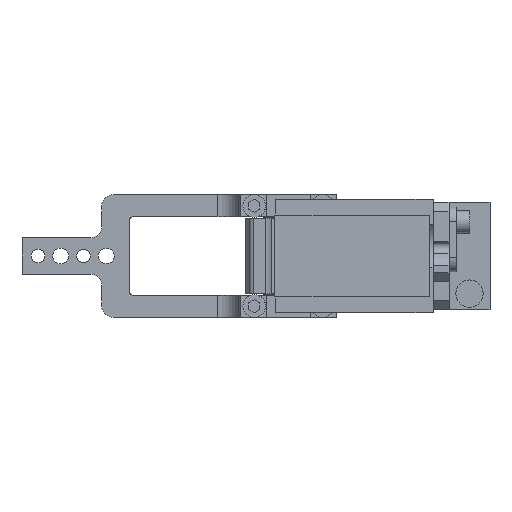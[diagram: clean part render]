
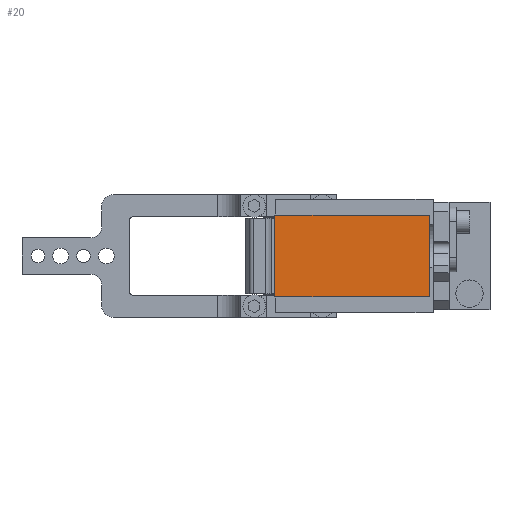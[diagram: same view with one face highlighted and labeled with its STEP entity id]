
A CAD part, front view. The second image highlights one B-rep face of the part: STEP entity #20.
In plain terms, the highlighted planar face has unit normal (0, -1, 0).
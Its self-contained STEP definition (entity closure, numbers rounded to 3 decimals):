
#20 = ADVANCED_FACE ( 'NONE', ( #4259 ), #9146, .T. ) ;
#434 = DIRECTION ( 'NONE',  ( 0., 0., -1. ) ) ;
#513 = LINE ( 'NONE', #10942, #3454 ) ;
#952 = EDGE_CURVE ( 'NONE', #12696, #3536, #513, .T. ) ;
#1089 = VERTEX_POINT ( 'NONE', #1895 ) ;
#1297 = DIRECTION ( 'NONE',  ( 1., 0., 0. ) ) ;
#1694 = EDGE_LOOP ( 'NONE', ( #9861, #12749, #5690, #10160 ) ) ;
#1895 = CARTESIAN_POINT ( 'NONE',  ( 62., -233., 18. ) ) ;
#1996 = CARTESIAN_POINT ( 'NONE',  ( 62., -233., 18. ) ) ;
#3454 = VECTOR ( 'NONE', #434, 1000. ) ;
#3536 = VERTEX_POINT ( 'NONE', #5125 ) ;
#4079 = VECTOR ( 'NONE', #6740, 1000. ) ;
#4259 = FACE_OUTER_BOUND ( 'NONE', #1694, .T. ) ;
#5125 = CARTESIAN_POINT ( 'NONE',  ( -6., -233., -18. ) ) ;
#5214 = CARTESIAN_POINT ( 'NONE',  ( -6., -233., 18. ) ) ;
#5690 = ORIENTED_EDGE ( 'NONE', *, *, #9302, .T. ) ;
#5812 = VECTOR ( 'NONE', #1297, 1000. ) ;
#6740 = DIRECTION ( 'NONE',  ( 0., 0., 1. ) ) ;
#6944 = EDGE_CURVE ( 'NONE', #3536, #12701, #14491, .T. ) ;
#7241 = LINE ( 'NONE', #9904, #9644 ) ;
#7368 = CARTESIAN_POINT ( 'NONE',  ( 62., -233., -18. ) ) ;
#7860 = DIRECTION ( 'NONE',  ( 0., 0., -1. ) ) ;
#7966 = EDGE_CURVE ( 'NONE', #1089, #12696, #7241, .T. ) ;
#8365 = CARTESIAN_POINT ( 'NONE',  ( -6., -233., -18. ) ) ;
#8919 = CARTESIAN_POINT ( 'NONE',  ( 0., -233., 0. ) ) ;
#9146 = PLANE ( 'NONE',  #14015 ) ;
#9302 = EDGE_CURVE ( 'NONE', #12701, #1089, #12487, .T. ) ;
#9644 = VECTOR ( 'NONE', #14519, 1000. ) ;
#9861 = ORIENTED_EDGE ( 'NONE', *, *, #952, .T. ) ;
#9904 = CARTESIAN_POINT ( 'NONE',  ( -6., -233., 18. ) ) ;
#10160 = ORIENTED_EDGE ( 'NONE', *, *, #7966, .T. ) ;
#10942 = CARTESIAN_POINT ( 'NONE',  ( -6., -233., 18. ) ) ;
#12487 = LINE ( 'NONE', #1996, #4079 ) ;
#12696 = VERTEX_POINT ( 'NONE', #5214 ) ;
#12701 = VERTEX_POINT ( 'NONE', #7368 ) ;
#12749 = ORIENTED_EDGE ( 'NONE', *, *, #6944, .T. ) ;
#13602 = DIRECTION ( 'NONE',  ( 0., -1., 0. ) ) ;
#14015 = AXIS2_PLACEMENT_3D ( 'NONE', #8919, #13602, #7860 ) ;
#14491 = LINE ( 'NONE', #8365, #5812 ) ;
#14519 = DIRECTION ( 'NONE',  ( -1., 0., 0. ) ) ;
